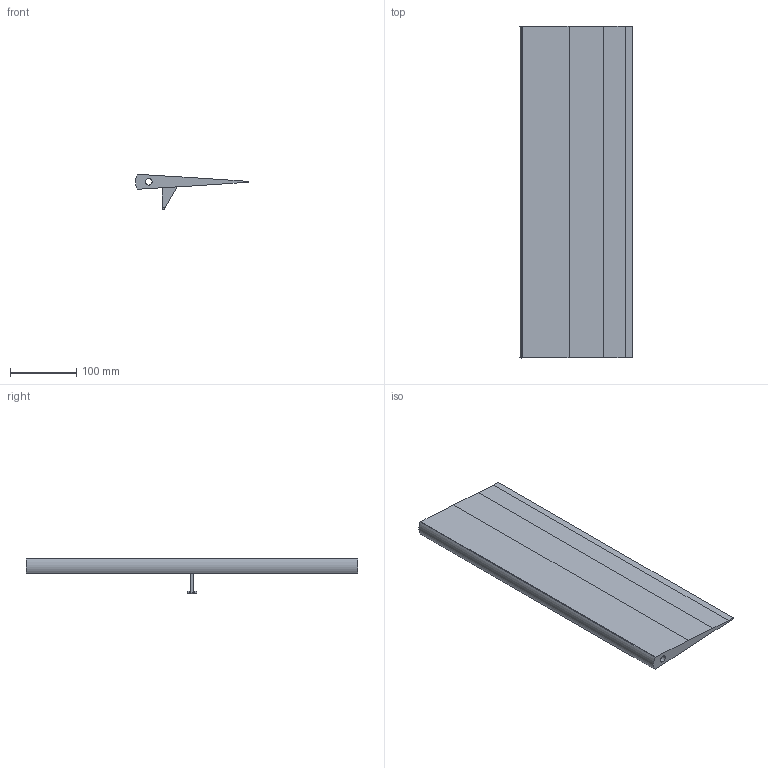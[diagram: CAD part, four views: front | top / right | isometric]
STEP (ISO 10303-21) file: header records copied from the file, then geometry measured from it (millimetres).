
FILE_DESCRIPTION(/* description */ (''),/* implementation_level */ '2;1');
FILE_NAME(/* name */ 'Trim_naca0006.stp',/* time_stamp */ '2021-12-01T14:30:51+01:00',/* author */ (''),/* organization */ (''),/* preprocessor_version */ 'ST-DEVELOPER v16.7',/* originating_system */ 'SIEMENS PLM Software NX 12.0',/* authorisation */ '');
FILE_SCHEMA (('AUTOMOTIVE_DESIGN { 1 0 10303 214 3 1 1 1 }'));
Length unit declared in the file: millimetre
Products named in the file (1): Trim_naca0006
Bounding box: 169.93 x 500 x 53.22 mm (x, y, z)
Volume: 1001790.2 mm3; surface area: 200318 mm2
Topology: 1 solids, 1 shells, 24 faces, 65 edges, 44 vertices
Faces by surface type: plane 17, cylinder 5, sphere 2
Full cylindrical faces by diameter (mm): 2.5 x2, 10 x1
Entity records: 704 total; most frequent: CARTESIAN_POINT 117, DIRECTION 114, ORIENTED_EDGE 108, EDGE_CURVE 54, LINE 44, VECTOR 44, VERTEX_POINT 38, AXIS2_PLACEMENT_3D 35
